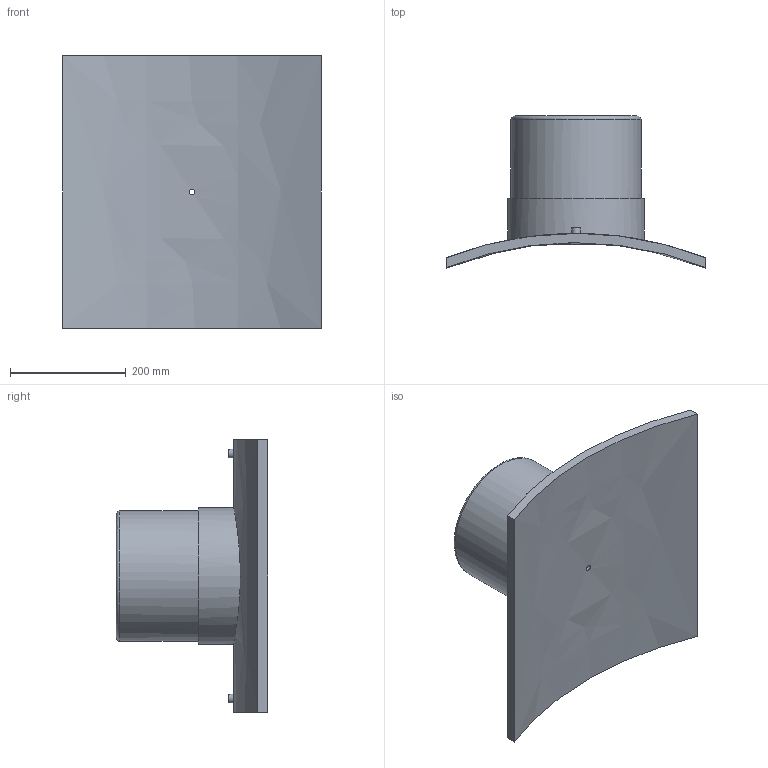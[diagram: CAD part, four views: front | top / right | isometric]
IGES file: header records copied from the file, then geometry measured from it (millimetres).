
Global section: file name: 4958031200225T; native system: Autodesk Inventor 2019; preprocessor: unknown; author: KIM; date: 20240404.114809; units: millimetre
Bounding box: 447 x 262.18 x 470 mm (x, y, z)
Volume: 6682133.1 mm3; surface area: 734669.6 mm2
Topology: 1 solids, 1 shells, 29 faces, 60 edges, 43 vertices
Faces by surface type: bspline 29
